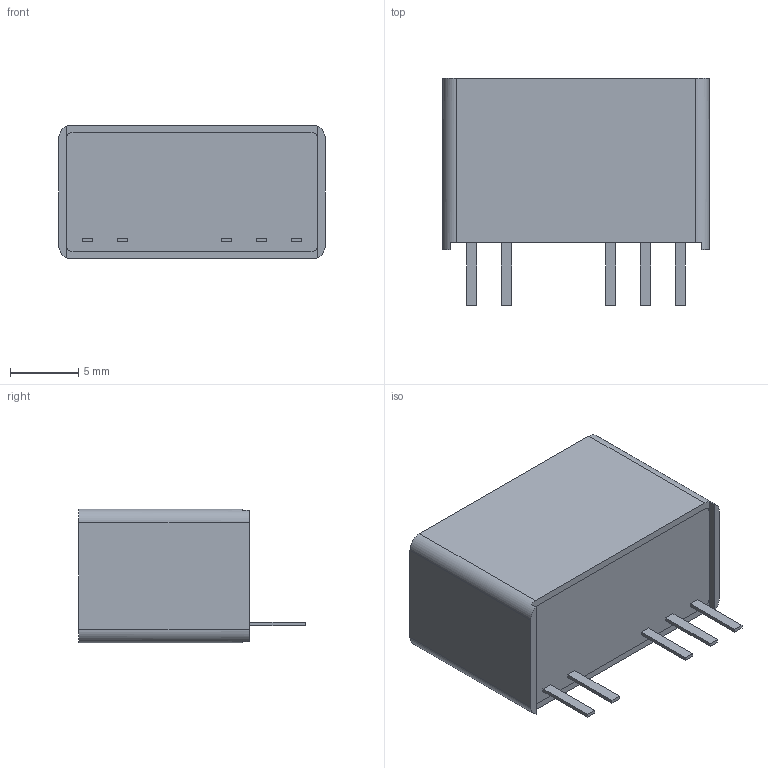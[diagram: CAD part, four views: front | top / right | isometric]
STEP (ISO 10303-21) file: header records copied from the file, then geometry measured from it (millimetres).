
FILE_DESCRIPTION(/* description */ (''),/* implementation_level */ '2;1');
FILE_NAME(/* name */ '\\192.168.1.249\上下蓋圖面查詢表\Data Sheet圖面\客戶別\CTC\DC\G series\N2112(GDP2)-(TAC-016-00)\PACKAGE\GDP2.stp',/* time_stamp */ '2021-10-07T13:13:29+08:00',/* author */ ('ching'),/* organization */ (''),/* preprocessor_version */ 'ST-DEVELOPER v16.5',/* originating_system */ 'Autodesk Inventor 2017',/* authorisation */ '');
FILE_SCHEMA (('AUTOMOTIVE_DESIGN { 1 0 10303 214 3 1 1 }'));
Length unit declared in the file: millimetre
Products named in the file (1): CPU2
Bounding box: 19.5 x 16.6 x 9.8 mm (x, y, z)
Volume: 2292.2 mm3; surface area: 1130.6 mm2
Topology: 6 solids, 6 shells, 46 faces, 106 edges, 72 vertices
Faces by surface type: plane 42, cylinder 4
Entity records: 1317 total; most frequent: CARTESIAN_POINT 225, DIRECTION 216, ORIENTED_EDGE 212, EDGE_CURVE 106, LINE 90, VECTOR 90, VERTEX_POINT 72, AXIS2_PLACEMENT_3D 63
